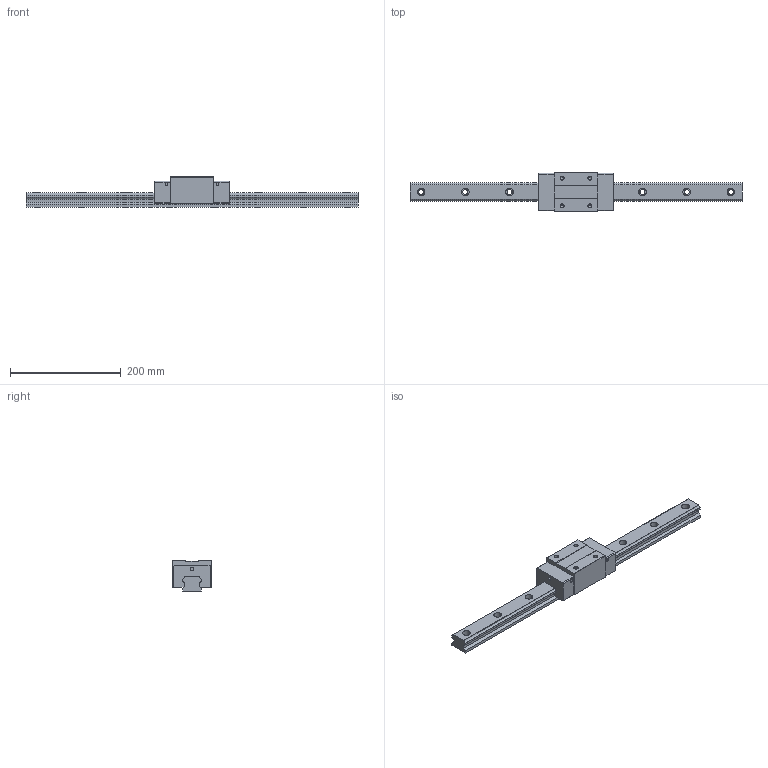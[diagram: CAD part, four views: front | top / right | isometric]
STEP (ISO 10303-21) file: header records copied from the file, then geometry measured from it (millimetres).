
FILE_DESCRIPTION (( 'STEP AP203' ), '1' );
FILE_NAME ('TRH35VN-DZ.STEP', '2024-07-10T08:26:38', ( '' ), ( '' ), 'SwSTEP 2.0', 'SolidWorks 2022', '' );
FILE_SCHEMA (( 'CONFIG_CONTROL_DESIGN' ));
Length unit declared in the file: millimetre
Products named in the file (1): TRH35VN-DZ
Bounding box: 600 x 70 x 55 mm (x, y, z)
Volume: 782839.9 mm3; surface area: 125895.8 mm2
Topology: 2 solids, 2 shells, 186 faces, 488 edges, 316 vertices
Faces by surface type: cylinder 88, plane 82, cone 16
Entity records: 5819 total; most frequent: DIRECTION 1038, CARTESIAN_POINT 983, ORIENTED_EDGE 960, EDGE_CURVE 480, AXIS2_PLACEMENT_3D 371, VERTEX_POINT 316, LINE 296, VECTOR 296
